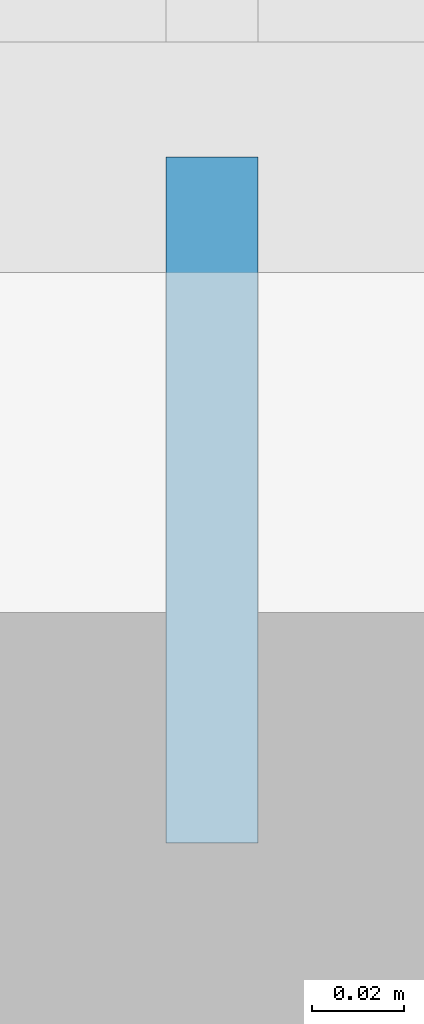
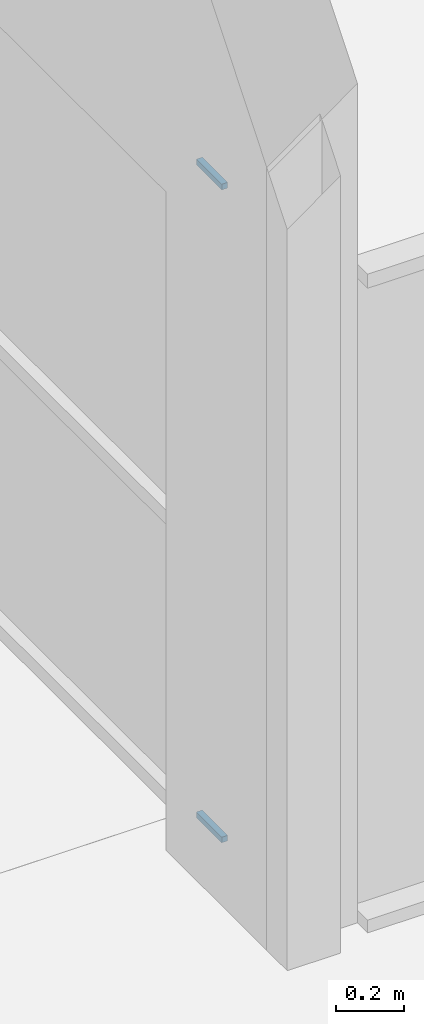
# One storey, part 53 of 117: 2 plates, 1 element without a shape of its own.
"""IFC4 building model written with IfcOpenShell, lengths in metres."""

from ifc_helpers import new_model, entity, si_unit, converted_unit, derived_unit, direction, frame, origin, place, context, subcontext, project, spatial, indexed_curve, outline, extrude, source, transform, mapped, material, type_object, type_shapes, element, aggregate, save


model = new_model("IFC4")

# Units and contexts
model_context = context("Model", 3, precision=1e-05, world=origin(), true_north=direction((6.123031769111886e-17, 1.0)))
body_context = subcontext(model_context, "Body", "Model", "MODEL_VIEW")
ifc_project = project(units=[si_unit("LENGTHUNIT", "METRE"), si_unit("AREAUNIT", "SQUARE_METRE"), si_unit("VOLUMEUNIT", "CUBIC_METRE"), converted_unit("PLANEANGLEUNIT", "DEGREE", entity("IfcRatioMeasure", 0.017453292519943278), si_unit("PLANEANGLEUNIT", "RADIAN"), dimensions=[0, 0, 0, 0, 0, 0, 0]), si_unit("MASSUNIT", "GRAM", prefix="KILO"), derived_unit("MASSDENSITYUNIT", [(si_unit("MASSUNIT", "GRAM", prefix="KILO"), 1), (si_unit("LENGTHUNIT", "METRE"), -3)]), derived_unit("MOMENTOFINERTIAUNIT", [(si_unit("LENGTHUNIT", "METRE"), 4)]), si_unit("TIMEUNIT", "SECOND"), si_unit("FREQUENCYUNIT", "HERTZ"), si_unit("THERMODYNAMICTEMPERATUREUNIT", "DEGREE_CELSIUS"), derived_unit("THERMALTRANSMITTANCEUNIT", [(si_unit("MASSUNIT", "GRAM", prefix="KILO"), 1), (si_unit("THERMODYNAMICTEMPERATUREUNIT", "KELVIN"), -1), (si_unit("TIMEUNIT", "SECOND"), -3)]), derived_unit("VOLUMETRICFLOWRATEUNIT", [(si_unit("LENGTHUNIT", "METRE"), 3), (si_unit("TIMEUNIT", "SECOND"), -1)]), derived_unit("MASSFLOWRATEUNIT", [(si_unit("MASSUNIT", "GRAM", prefix="KILO"), 1), (si_unit("TIMEUNIT", "SECOND"), -1)]), derived_unit("ROTATIONALFREQUENCYUNIT", [(si_unit("TIMEUNIT", "SECOND"), -1)]), si_unit("ELECTRICCURRENTUNIT", "AMPERE"), si_unit("ELECTRICVOLTAGEUNIT", "VOLT"), si_unit("POWERUNIT", "WATT"), si_unit("FORCEUNIT", "NEWTON", prefix="KILO"), si_unit("ILLUMINANCEUNIT", "LUX"), si_unit("LUMINOUSFLUXUNIT", "LUMEN"), si_unit("LUMINOUSINTENSITYUNIT", "CANDELA"), derived_unit("USERDEFINED", [(si_unit("MASSUNIT", "GRAM", prefix="KILO"), -1), (si_unit("LENGTHUNIT", "METRE"), -2), (si_unit("TIMEUNIT", "SECOND"), 3), (si_unit("LUMINOUSFLUXUNIT", "LUMEN"), 1)]), derived_unit("SOUNDPOWERUNIT", [(si_unit("MASSUNIT", "GRAM", prefix="KILO"), 1), (si_unit("LENGTHUNIT", "METRE"), 2), (si_unit("TIMEUNIT", "SECOND"), -3)]), derived_unit("SOUNDPRESSUREUNIT", [(si_unit("MASSUNIT", "GRAM", prefix="KILO"), 1), (si_unit("LENGTHUNIT", "METRE"), -1), (si_unit("TIMEUNIT", "SECOND"), -2)]), derived_unit("LINEARVELOCITYUNIT", [(si_unit("LENGTHUNIT", "METRE"), 1), (si_unit("TIMEUNIT", "SECOND"), -1)]), si_unit("PRESSUREUNIT", "PASCAL"), derived_unit("USERDEFINED", [(si_unit("LENGTHUNIT", "METRE"), -2), (si_unit("MASSUNIT", "GRAM", prefix="KILO"), 1), (si_unit("TIMEUNIT", "SECOND"), -2)]), derived_unit("LINEARFORCEUNIT", [(si_unit("MASSUNIT", "GRAM", prefix="KILO"), 1), (si_unit("LENGTHUNIT", "METRE"), 1), (si_unit("TIMEUNIT", "SECOND"), -2), (si_unit("LENGTHUNIT", "METRE"), -1)]), derived_unit("PLANARFORCEUNIT", [(si_unit("MASSUNIT", "GRAM", prefix="KILO"), 1), (si_unit("LENGTHUNIT", "METRE"), 1), (si_unit("TIMEUNIT", "SECOND"), -2), (si_unit("LENGTHUNIT", "METRE"), -2)])], contexts=[model_context])

# Site, building, storey
site_placement = place(None, origin())
site = spatial("IfcSite", under=ifc_project, at=site_placement, Name="Superficie", CompositionType="ELEMENT")
building_placement = place(site_placement, origin())
building = spatial("IfcBuilding", under=site, at=building_placement, CompositionType="ELEMENT")
storey_placement = place(building_placement, origin())
storey = spatial("IfcBuildingStorey", under=building, at=storey_placement, Name="Nivel 0", CompositionType="ELEMENT", Elevation=0.0)

# Curtain wall, plates
curtain_wall_type = type_object("IfcCurtainWallType", Name="Muro cortina:Muro cortina - simple", PredefinedType="NOTDEFINED")
curtain_wall_placement = place(storey_placement, origin())
curtain_wall = element("IfcCurtainWall", 1, at=curtain_wall_placement, inside=storey, type_object=curtain_wall_type, Name="Muro cortina:Muro cortina - simple", ObjectType="Muro cortina:Muro cortina - simple", PredefinedType="NOTDEFINED")
ifc_material = material(Name="Cristal", Category="Vidrio")
plate_type = type_object("IfcPlateType", Name="Panel de sistema:Acristalado", PredefinedType="CURTAIN_PANEL", material=ifc_material)
shared_shape = source(origin(), body_context, "Body", "SweptSolid", [
    extrude(outline(indexed_curve([(-0.01, -0.07434688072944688), (0.01, -0.07434688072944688), (0.01, 0.07434688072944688), (-0.01, 0.07434688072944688), (-0.01, -0.07434688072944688)], self_intersect=False)), frame((0.0, 0.0, 0.0), z_axis=(0.0, 0.0, 1.0), x_axis=(0.0, 1.0, 0.0)), (0.0, 0.0, 1.0), 0.020000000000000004),
])
type_shapes(plate_type, [shared_shape])
plate_1_placement = place(curtain_wall_placement, frame((16.016799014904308, 6.401097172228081, 0.0), z_axis=(0.0, 0.0, 1.0), x_axis=(0.0, -1.0, 0.0)))
plate_1 = element("IfcPlate", 2, at=plate_1_placement, type_object=plate_type, material=ifc_material, Name="Panel de sistema:Acristalado", ObjectType="Panel de sistema:Acristalado", PredefinedType="CURTAIN_PANEL", context=body_context, shape_type="MappedRepresentation", body=[
    mapped(shared_shape, transform((0.0, 0.0, 0.0), scale=1.0)),
])
plate_2_placement = place(curtain_wall_placement, frame((16.016799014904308, 6.401097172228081, 2.33), z_axis=(0.0, 0.0, 1.0), x_axis=(0.0, -1.0, 0.0)))
plate_2 = element("IfcPlate", 3, at=plate_2_placement, type_object=plate_type, material=ifc_material, Name="Panel de sistema:Acristalado", ObjectType="Panel de sistema:Acristalado", PredefinedType="CURTAIN_PANEL", context=body_context, shape_type="MappedRepresentation", body=[
    mapped(shared_shape, transform((0.0, 0.0, 0.0), scale=1.0)),
])
aggregate(curtain_wall, [plate_1, plate_2])

save(model, "model.ifc")
